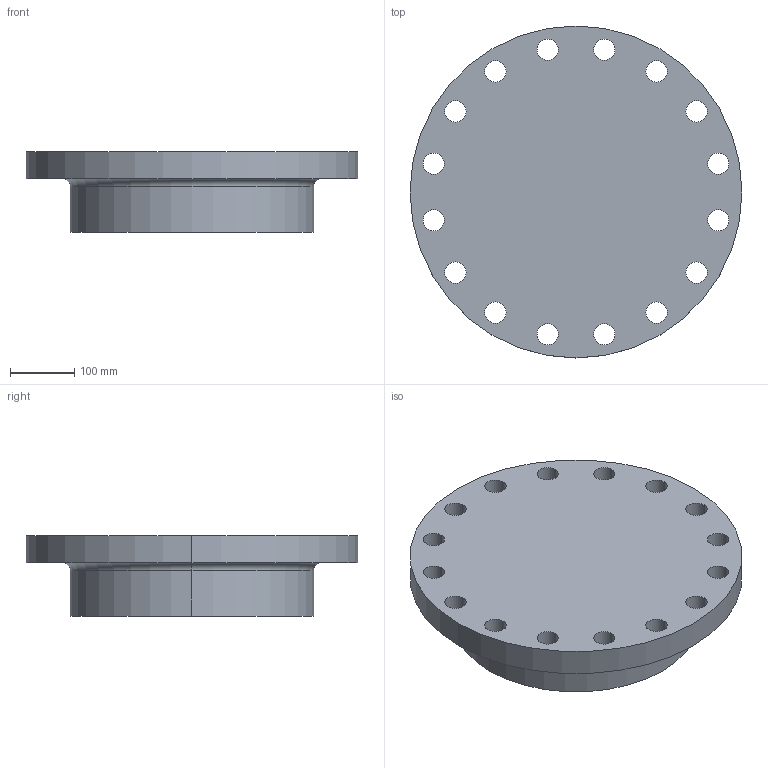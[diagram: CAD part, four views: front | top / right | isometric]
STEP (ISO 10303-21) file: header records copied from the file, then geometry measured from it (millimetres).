
FILE_DESCRIPTION (( 'STEP AP214' ), '1' );
FILE_NAME ('PN40 DN300 Type 21(i) - Type A Face.STEP', '2019-01-05T20:17:59', ( '' ), ( '' ), 'SwSTEP 2.0', 'SolidWorks 2019', '' );
FILE_SCHEMA (( 'AUTOMOTIVE_DESIGN' ));
Length unit declared in the file: millimetre
Products named in the file (1): PN40 DN300 Type 21(i) - Type A Face
Bounding box: 515 x 515 x 125 mm (x, y, z)
Volume: 17525689.9 mm3; surface area: 619377.6 mm2
Topology: 1 solids, 1 shells, 41 faces, 112 edges, 74 vertices
Faces by surface type: cylinder 36, plane 3, torus 2
Entity records: 1444 total; most frequent: DIRECTION 272, CARTESIAN_POINT 228, ORIENTED_EDGE 224, AXIS2_PLACEMENT_3D 118, EDGE_CURVE 112, CIRCLE 76, EDGE_LOOP 74, VERTEX_POINT 74
